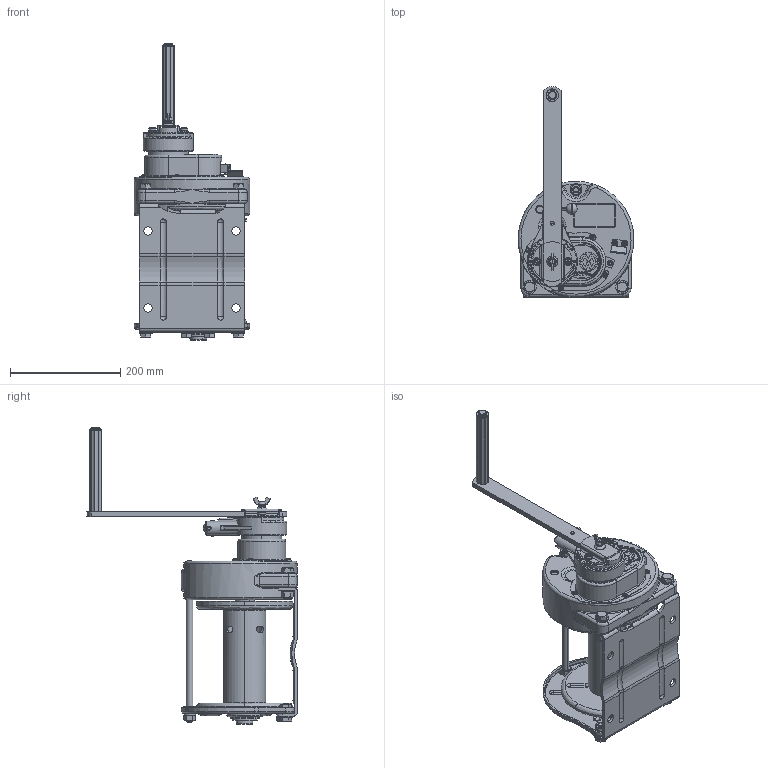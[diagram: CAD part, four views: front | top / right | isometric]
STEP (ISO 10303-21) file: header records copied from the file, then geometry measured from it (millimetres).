
FILE_DESCRIPTION( (''), '2;1');
FILE_NAME ('ERSB-10.stp','2024-01-10T10:00:55',(''),(''),'spGate 19.8.2 (****-****-****-****)','','');
FILE_SCHEMA (('AUTOMOTIVE_DESIGN'));
Length unit declared in the file: millimetre
Products named in the file (3): Assembly; ERSB-10-prt0; ERSB-10-prt1
Assembly tree (2 placements, depth 2):
  Assembly
    ERSB-10-prt0
    ERSB-10-prt1
Bounding box: 209.96 x 382.43 x 538.8 mm (x, y, z)
Volume: 4193648.1 mm3; surface area: 711133.6 mm2
Topology: 2 solids, 2 shells, 2963 faces, 7571 edges, 4766 vertices
Faces by surface type: plane 1478, cylinder 907, bspline 471, sphere 107
Entity records: 161480 total; most frequent: CARTESIAN_POINT 30666, ORIENTED_EDGE 15032, DIRECTION 14656, COLOUR_RGB 10481, PRESENTATION_STYLE_ASSIGNMENT 10481, STYLED_ITEM 10481, EDGE_CURVE 7516, DRAUGHTING_PRE_DEFINED_CURVE_FONT 7516
